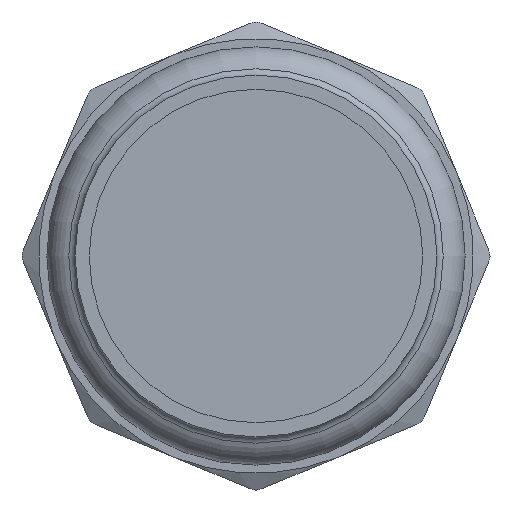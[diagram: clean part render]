
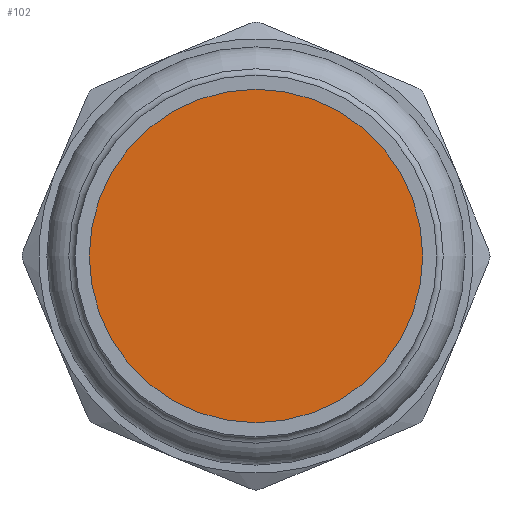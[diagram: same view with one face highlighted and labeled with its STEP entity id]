
A CAD part, front view. The second image highlights one B-rep face of the part: STEP entity #102.
In plain terms, the highlighted planar face has unit normal (0, -1, 0).
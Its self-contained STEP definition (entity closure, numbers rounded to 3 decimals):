
#102=ADVANCED_FACE('',(#478),#480,.T.);
#478=FACE_BOUND('',#479,.T.);
#479=EDGE_LOOP('',(#680));
#480=PLANE('',#481);
#481=AXIS2_PLACEMENT_3D('',#482,#483,#484);
#482=CARTESIAN_POINT('',(0.,7.257,0.));
#483=DIRECTION('',(0.,-1.,0.));
#484=DIRECTION('',(0.,0.,-1.));
#680=ORIENTED_EDGE('',*,*,#778,.T.);
#778=EDGE_CURVE('',#941,#941,#942,.F.);
#941=VERTEX_POINT('',#2564);
#942=CIRCLE('',#2565,17.65);
#2564=CARTESIAN_POINT('',(0.,7.257,17.65));
#2565=AXIS2_PLACEMENT_3D('',#2566,#2567,#2568);
#2566=CARTESIAN_POINT('',(0.,7.257,0.));
#2567=DIRECTION('',(0.,1.,0.));
#2568=DIRECTION('',(0.,0.,1.));
